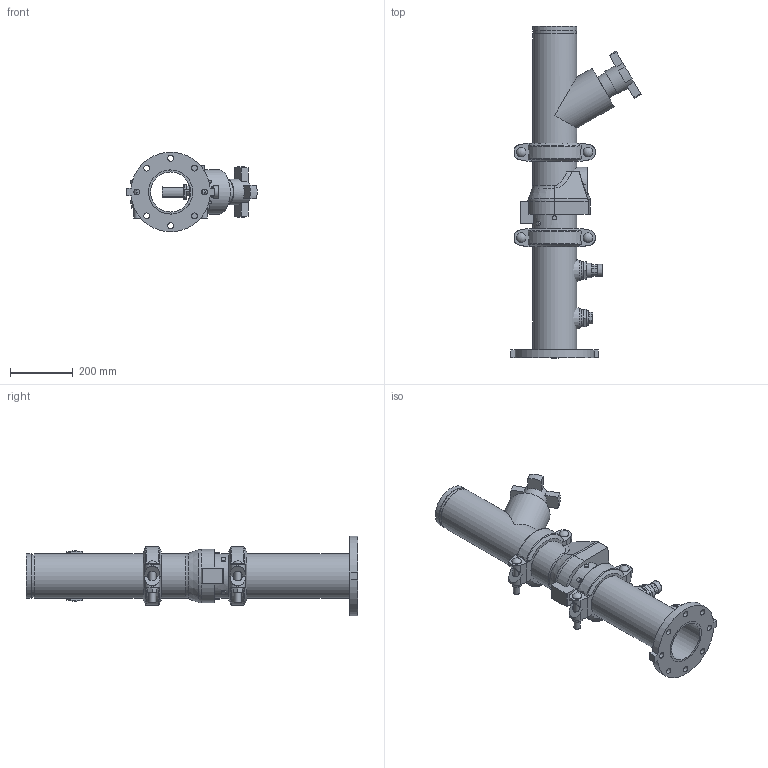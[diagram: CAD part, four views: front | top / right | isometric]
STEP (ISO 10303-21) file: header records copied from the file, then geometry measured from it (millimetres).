
FILE_DESCRIPTION(/* description */ ('VIC DVI PUMP DROP VERT S/383 (OGSxFLG) (S/924-0.75)','CAx-IF Rec.Pracs.---Representation and Presentation of Product Manufacturing Information (PMI)---4.0---2014-10-13'),/* implementation_level */ '2;1');
FILE_NAME(/* name */ 'C:\Users\Public\Documents\Victaulic.Temp\A849\Victaulic_IPS_Vertical DVI_CL 150_Series 383 (OGSxFLG)_924 (0.75)_05.0x05.0 (125x125).stp',/* time_stamp */ '2022-07-25T11:39:57+02:00',/* author */ ('Vjadhav'),/* organization */ ('Victaulic'),/* preprocessor_version */ 'ST-DEVELOPER v18',/* originating_system */ 'Autodesk Inventor 2020',/* authorisation */ '');
FILE_SCHEMA (('AP242_MANAGED_MODEL_BASED_3D_ENGINEERING_MIM_LF { 1 0 10303 442 1 1 4 }'));
Length unit declared in the file: inch
Products named in the file (8): 383_924 (0.75)-05.0x05.0; 741-05.0; Pipe-05.0; 177N-05.0; 789-05.0; 779-05.0; 924-04.0x0.75; 923-04.0x0.75
Assembly tree (8 placements, depth 2):
  383_924 (0.75)-05.0x05.0
    741-05.0
    Pipe-05.0
    177N-05.0  x2
    789-05.0
    779-05.0
    924-04.0x0.75
    923-04.0x0.75
Bounding box: 416.05 x 1060.45 x 253.05 mm (x, y, z)
Volume: 9671468.5 mm3; surface area: 1496485.8 mm2
Topology: 8 solids, 8 shells, 423 faces, 1132 edges, 758 vertices
Faces by surface type: plane 248, cylinder 142, torus 14, cone 13, sphere 4, bspline 2
Full cylindrical faces by diameter (mm): 13.716 x4, 19.05 x8, 21.209 x4, 26.67 x2, 30.48 x4, 38.608 x1, 45.974 x4, 55.626 x2, 75.26 x1, 82.55 x1, 128.194 x3, 128.6 x2, 137.033 x6, 141.3 x16
Entity records: 11572 total; most frequent: CARTESIAN_POINT 2378, DIRECTION 1884, ORIENTED_EDGE 1742, EDGE_CURVE 871, AXIS2_PLACEMENT_3D 710, VERTEX_POINT 586, LINE 464, VECTOR 464
